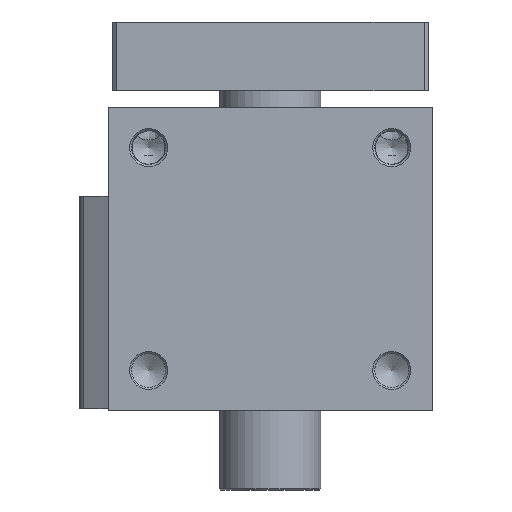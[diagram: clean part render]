
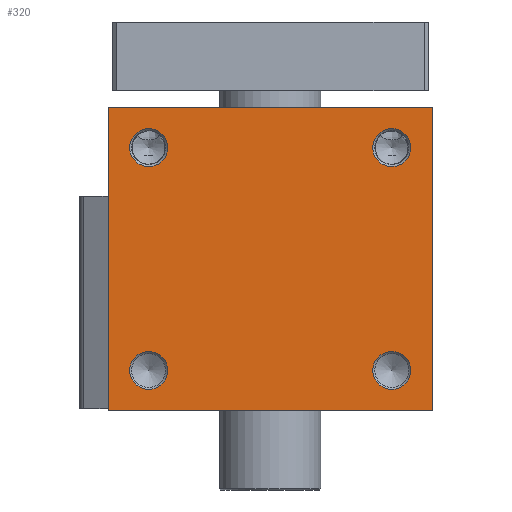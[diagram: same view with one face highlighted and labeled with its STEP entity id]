
A CAD part, left-side view. The second image highlights one B-rep face of the part: STEP entity #320.
In plain terms, the highlighted planar face has unit normal (-1, 0, 0).
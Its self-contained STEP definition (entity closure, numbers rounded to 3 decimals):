
#190=CARTESIAN_POINT('',(-81.641,-41.316,-0.5));
#191=VERTEX_POINT('',#190);
#198=CARTESIAN_POINT('',(-81.641,38.684,-0.5));
#199=VERTEX_POINT('',#198);
#200=CARTESIAN_POINT('',(-81.641,38.684,-0.5));
#201=DIRECTION('',(0.0,-1.0,0.0));
#202=VECTOR('',#201,80.0);
#203=LINE('',#200,#202);
#204=EDGE_CURVE('',#199,#191,#203,.T.);
#242=CARTESIAN_POINT('',(-81.641,28.684,69.188));
#243=VERTEX_POINT('',#242);
#244=CARTESIAN_POINT('',(-81.641,28.684,64.5));
#245=DIRECTION('',(-1.0,0.0,0.0));
#246=DIRECTION('',(0.0,0.0,-1.0));
#247=AXIS2_PLACEMENT_3D('',#244,#245,#246);
#248=CIRCLE('',#247,4.688);
#249=EDGE_CURVE('',#243,#243,#248,.T.);
#254=CARTESIAN_POINT('',(-81.641,-1.316,-0.5));
#255=DIRECTION('',(-1.0,0.0,0.0));
#256=DIRECTION('',(0.0,0.0,1.0));
#257=AXIS2_PLACEMENT_3D('',#254,#255,#256);
#258=PLANE('',#257);
#259=CARTESIAN_POINT('',(-81.641,-41.316,74.5));
#260=VERTEX_POINT('',#259);
#261=CARTESIAN_POINT('',(-81.641,-41.316,-0.5));
#262=DIRECTION('',(0.0,0.0,1.0));
#263=VECTOR('',#262,75.0);
#264=LINE('',#261,#263);
#265=EDGE_CURVE('',#191,#260,#264,.T.);
#266=ORIENTED_EDGE('',*,*,#265,.T.);
#267=CARTESIAN_POINT('',(-81.641,38.684,74.5));
#268=VERTEX_POINT('',#267);
#269=CARTESIAN_POINT('',(-81.641,38.684,74.5));
#270=DIRECTION('',(0.0,-1.0,0.0));
#271=VECTOR('',#270,80.0);
#272=LINE('',#269,#271);
#273=EDGE_CURVE('',#268,#260,#272,.T.);
#274=ORIENTED_EDGE('',*,*,#273,.F.);
#275=CARTESIAN_POINT('',(-81.641,38.684,74.5));
#276=DIRECTION('',(0.0,0.0,-1.0));
#277=VECTOR('',#276,75.0);
#278=LINE('',#275,#277);
#279=EDGE_CURVE('',#268,#199,#278,.T.);
#280=ORIENTED_EDGE('',*,*,#279,.T.);
#281=ORIENTED_EDGE('',*,*,#204,.T.);
#282=EDGE_LOOP('',(#266,#274,#280,#281));
#283=FACE_OUTER_BOUND('',#282,.T.);
#284=CARTESIAN_POINT('',(-81.641,-31.316,69.188));
#285=VERTEX_POINT('',#284);
#286=CARTESIAN_POINT('',(-81.641,-31.316,64.5));
#287=DIRECTION('',(-1.0,0.0,0.0));
#288=DIRECTION('',(0.0,0.0,-1.0));
#289=AXIS2_PLACEMENT_3D('',#286,#287,#288);
#290=CIRCLE('',#289,4.688);
#291=EDGE_CURVE('',#285,#285,#290,.T.);
#292=ORIENTED_EDGE('',*,*,#291,.F.);
#293=EDGE_LOOP('',(#292));
#294=FACE_BOUND('',#293,.T.);
#295=CARTESIAN_POINT('',(-81.641,-31.316,14.188));
#296=VERTEX_POINT('',#295);
#297=CARTESIAN_POINT('',(-81.641,-31.316,9.5));
#298=DIRECTION('',(-1.0,0.0,0.0));
#299=DIRECTION('',(0.0,0.0,-1.0));
#300=AXIS2_PLACEMENT_3D('',#297,#298,#299);
#301=CIRCLE('',#300,4.688);
#302=EDGE_CURVE('',#296,#296,#301,.T.);
#303=ORIENTED_EDGE('',*,*,#302,.F.);
#304=EDGE_LOOP('',(#303));
#305=FACE_BOUND('',#304,.T.);
#306=CARTESIAN_POINT('',(-81.641,28.684,14.188));
#307=VERTEX_POINT('',#306);
#308=CARTESIAN_POINT('',(-81.641,28.684,9.5));
#309=DIRECTION('',(-1.0,0.0,0.0));
#310=DIRECTION('',(0.0,0.0,-1.0));
#311=AXIS2_PLACEMENT_3D('',#308,#309,#310);
#312=CIRCLE('',#311,4.688);
#313=EDGE_CURVE('',#307,#307,#312,.T.);
#314=ORIENTED_EDGE('',*,*,#313,.F.);
#315=EDGE_LOOP('',(#314));
#316=FACE_BOUND('',#315,.T.);
#317=ORIENTED_EDGE('',*,*,#249,.F.);
#318=EDGE_LOOP('',(#317));
#319=FACE_BOUND('',#318,.T.);
#320=ADVANCED_FACE('',(#283,#294,#305,#316,#319),#258,.T.);
